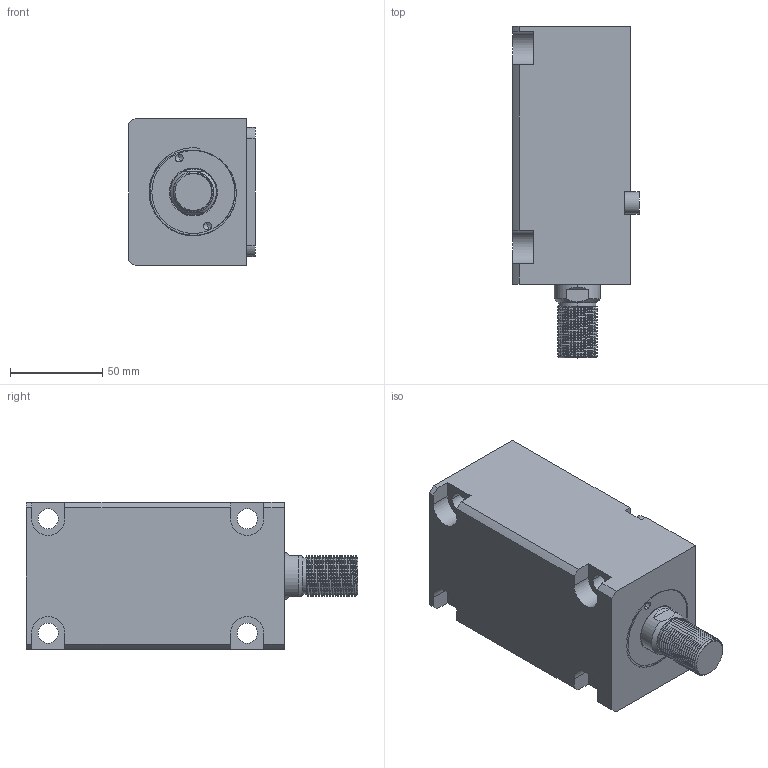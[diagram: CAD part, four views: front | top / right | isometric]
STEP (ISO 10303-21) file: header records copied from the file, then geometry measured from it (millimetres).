
FILE_DESCRIPTION (( 'STEP AP214' ), '1' );
FILE_NAME ('chtb-lam40x85w_asm.STEP', '2018-05-30T03:06:48', ( 'Windows' ), ( 'Microsoft' ), 'SwSTEP 2.0', 'SolidWorks 2015', '' );
FILE_SCHEMA (( 'AUTOMOTIVE_DESIGN' ));
Length unit declared in the file: millimetre
Products named in the file (5): CHTB-SD40X85WHSG; CHTB-SD40QG; CHTB-LAM40X85NBT; CHTB-LA40PJ; chtb-lam40x85w_asm
Assembly tree (4 placements, depth 2):
  chtb-lam40x85w_asm
    CHTB-LA40PJ
    CHTB-LAM40X85NBT
    CHTB-SD40QG
    CHTB-SD40X85WHSG
Bounding box: 68.5 x 180 x 80 mm (x, y, z)
Volume: 631282.1 mm3; surface area: 108633.1 mm2
Topology: 4 solids, 5 shells, 199 faces, 547 edges, 365 vertices
Faces by surface type: cylinder 111, plane 50, bspline 16, torus 12, cone 10
Entity records: 13609 total; most frequent: CARTESIAN_POINT 8674, ORIENTED_EDGE 1082, DIRECTION 894, EDGE_CURVE 541, VERTEX_POINT 365, AXIS2_PLACEMENT_3D 349, EDGE_LOOP 226, ADVANCED_FACE 199
